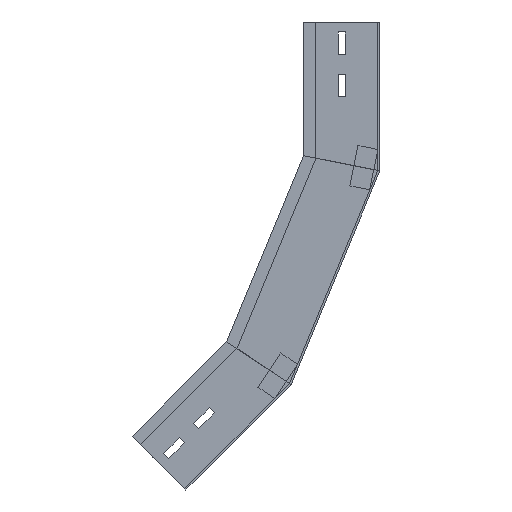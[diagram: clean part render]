
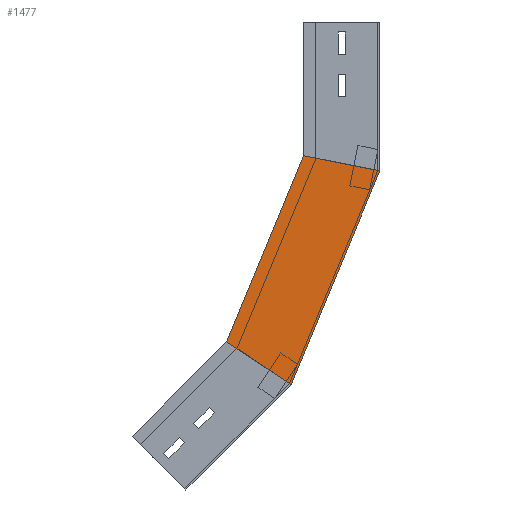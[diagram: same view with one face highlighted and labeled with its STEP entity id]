
A CAD part, left-side view. The second image highlights one B-rep face of the part: STEP entity #1477.
In plain terms, the highlighted planar face has unit normal (-1, 0, 0) as drawn and (1, 0, 0) by its records, which use the part's own axes.
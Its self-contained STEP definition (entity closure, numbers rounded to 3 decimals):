
#76 = VERTEX_POINT ( 'NONE', #1162 ) ;
#122 = ORIENTED_EDGE ( 'NONE', *, *, #448, .F. ) ;
#142 = CARTESIAN_POINT ( 'NONE',  ( 0., 69.291, -117.899 ) ) ;
#224 = CARTESIAN_POINT ( 'NONE',  ( 0., 0., -146.6 ) ) ;
#258 = CARTESIAN_POINT ( 'NONE',  ( 0., 124.345, -332.696 ) ) ;
#440 = VERTEX_POINT ( 'NONE', #817 ) ;
#448 = EDGE_CURVE ( 'NONE', #668, #440, #476, .T. ) ;
#461 = VECTOR ( 'NONE', #1260, 1000. ) ;
#464 = ORIENTED_EDGE ( 'NONE', *, *, #526, .T. ) ;
#476 = LINE ( 'NONE', #142, #461 ) ;
#490 = LINE ( 'NONE', #258, #1315 ) ;
#502 = DIRECTION ( 'NONE',  ( 0., -0.981, -0.195 ) ) ;
#518 = CARTESIAN_POINT ( 'NONE',  ( 0., 28.051, -141.02 ) ) ;
#526 = EDGE_CURVE ( 'NONE', #668, #76, #965, .T. ) ;
#616 = AXIS2_PLACEMENT_3D ( 'NONE', #1340, #1470, #901 ) ;
#667 = DIRECTION ( 'NONE',  ( 0., 0.383, -0.924 ) ) ;
#668 = VERTEX_POINT ( 'NONE', #865 ) ;
#685 = EDGE_CURVE ( 'NONE', #76, #1147, #1257, .T. ) ;
#693 = VECTOR ( 'NONE', #667, 1000. ) ;
#719 = DIRECTION ( 'NONE',  ( 0., -0.831, -0.556 ) ) ;
#814 = VECTOR ( 'NONE', #502, 1000. ) ;
#817 = CARTESIAN_POINT ( 'NONE',  ( 0., 150.91, -314.945 ) ) ;
#865 = CARTESIAN_POINT ( 'NONE',  ( 0., 75., -131.682 ) ) ;
#880 = FACE_OUTER_BOUND ( 'NONE', #1481, .T. ) ;
#890 = EDGE_CURVE ( 'NONE', #440, #1147, #490, .T. ) ;
#901 = DIRECTION ( 'NONE',  ( 0., 0., 1. ) ) ;
#965 = LINE ( 'NONE', #518, #814 ) ;
#1002 = CARTESIAN_POINT ( 'NONE',  ( 0., 87.328, -357.429 ) ) ;
#1009 = PLANE ( 'NONE',  #616 ) ;
#1033 = ORIENTED_EDGE ( 'NONE', *, *, #890, .F. ) ;
#1147 = VERTEX_POINT ( 'NONE', #1002 ) ;
#1162 = CARTESIAN_POINT ( 'NONE',  ( 0., 0., -146.6 ) ) ;
#1257 = LINE ( 'NONE', #224, #693 ) ;
#1260 = DIRECTION ( 'NONE',  ( 0., 0.383, -0.924 ) ) ;
#1315 = VECTOR ( 'NONE', #719, 1000. ) ;
#1340 = CARTESIAN_POINT ( 'NONE',  ( 0., 0., -146.6 ) ) ;
#1355 = ORIENTED_EDGE ( 'NONE', *, *, #685, .T. ) ;
#1470 = DIRECTION ( 'NONE',  ( -1., 0., 0. ) ) ;
#1477 = ADVANCED_FACE ( 'NONE', ( #880 ), #1009, .F. ) ;
#1481 = EDGE_LOOP ( 'NONE', ( #122, #464, #1355, #1033 ) ) ;
